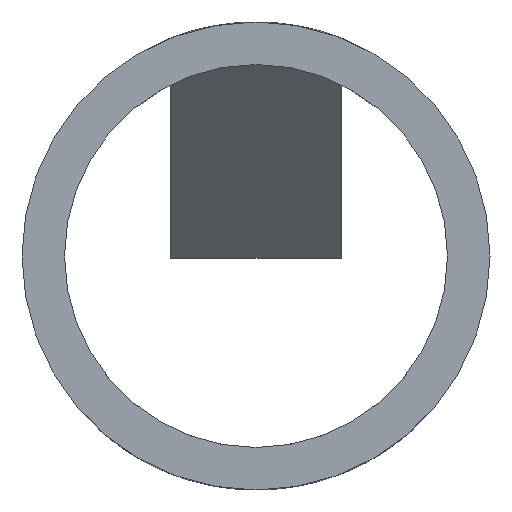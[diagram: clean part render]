
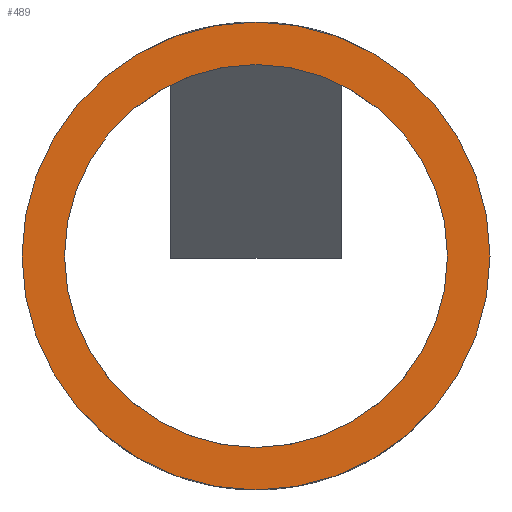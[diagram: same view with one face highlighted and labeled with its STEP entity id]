
A CAD part, front view. The second image highlights one B-rep face of the part: STEP entity #489.
In plain terms, the highlighted planar face has unit normal (0, -1, 0).
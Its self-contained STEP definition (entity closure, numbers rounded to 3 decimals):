
#38 = ORIENTED_EDGE ( 'NONE', *, *, #225, .T. ) ;
#43 = ORIENTED_EDGE ( 'NONE', *, *, #203, .T. ) ;
#44 = ORIENTED_EDGE ( 'NONE', *, *, #247, .F. ) ;
#45 = ORIENTED_EDGE ( 'NONE', *, *, #198, .F. ) ;
#120 = FACE_BOUND ( 'NONE', #294, .T. ) ;
#121 = FACE_OUTER_BOUND ( 'NONE', #284, .T. ) ;
#132 = CIRCLE ( 'NONE', #261, 4.5 ) ;
#146 = CIRCLE ( 'NONE', #262, 5.5 ) ;
#177 = CIRCLE ( 'NONE', #222, 5.5 ) ;
#183 = CIRCLE ( 'NONE', #241, 4.5 ) ;
#198 = EDGE_CURVE ( 'NONE', #726, #732, #183, .T. ) ;
#203 = EDGE_CURVE ( 'NONE', #725, #736, #177, .T. ) ;
#222 = AXIS2_PLACEMENT_3D ( 'NONE', #671, #668, #667 ) ;
#225 = EDGE_CURVE ( 'NONE', #736, #725, #146, .T. ) ;
#241 = AXIS2_PLACEMENT_3D ( 'NONE', #614, #603, #598 ) ;
#247 = EDGE_CURVE ( 'NONE', #732, #726, #132, .T. ) ;
#255 = AXIS2_PLACEMENT_3D ( 'NONE', #448, #446, #445 ) ;
#261 = AXIS2_PLACEMENT_3D ( 'NONE', #816, #813, #812 ) ;
#262 = AXIS2_PLACEMENT_3D ( 'NONE', #619, #567, #566 ) ;
#284 = EDGE_LOOP ( 'NONE', ( #38, #43 ) ) ;
#294 = EDGE_LOOP ( 'NONE', ( #44, #45 ) ) ;
#338 = CARTESIAN_POINT ( 'NONE',  ( 5.5, 0., 0. ) ) ;
#342 = CARTESIAN_POINT ( 'NONE',  ( -5.5, 0., 0. ) ) ;
#359 = CARTESIAN_POINT ( 'NONE',  ( -4.5, 0., 0. ) ) ;
#368 = CARTESIAN_POINT ( 'NONE',  ( 4.5, 0., 0. ) ) ;
#445 = DIRECTION ( 'NONE',  ( -1., 0., 0. ) ) ;
#446 = DIRECTION ( 'NONE',  ( 0., -1., 0. ) ) ;
#447 = PLANE ( 'NONE',  #255 ) ;
#448 = CARTESIAN_POINT ( 'NONE',  ( 0., 0., 0. ) ) ;
#489 = ADVANCED_FACE ( 'NONE', ( #121, #120 ), #447, .T. ) ;
#566 = DIRECTION ( 'NONE',  ( -1., 0., 0. ) ) ;
#567 = DIRECTION ( 'NONE',  ( 0., -1., 0. ) ) ;
#598 = DIRECTION ( 'NONE',  ( -1., 0., 0. ) ) ;
#603 = DIRECTION ( 'NONE',  ( 0., -1., 0. ) ) ;
#614 = CARTESIAN_POINT ( 'NONE',  ( 0., 0., 0. ) ) ;
#619 = CARTESIAN_POINT ( 'NONE',  ( 0., 0., 0. ) ) ;
#667 = DIRECTION ( 'NONE',  ( -1., 0., 0. ) ) ;
#668 = DIRECTION ( 'NONE',  ( 0., -1., 0. ) ) ;
#671 = CARTESIAN_POINT ( 'NONE',  ( 0., 0., 0. ) ) ;
#725 = VERTEX_POINT ( 'NONE', #342 ) ;
#726 = VERTEX_POINT ( 'NONE', #359 ) ;
#732 = VERTEX_POINT ( 'NONE', #368 ) ;
#736 = VERTEX_POINT ( 'NONE', #338 ) ;
#812 = DIRECTION ( 'NONE',  ( -1., 0., 0. ) ) ;
#813 = DIRECTION ( 'NONE',  ( 0., -1., 0. ) ) ;
#816 = CARTESIAN_POINT ( 'NONE',  ( 0., 0., 0. ) ) ;
